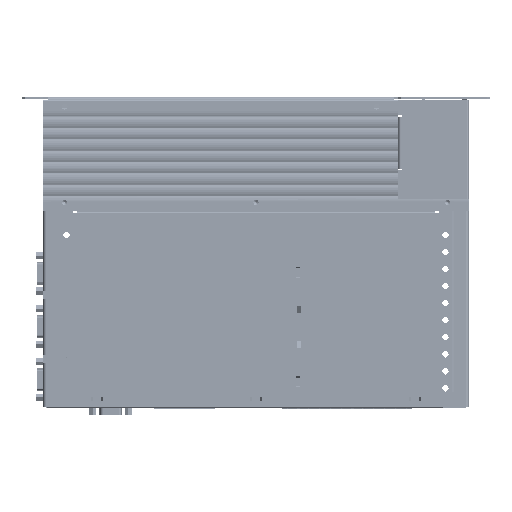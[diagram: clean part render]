
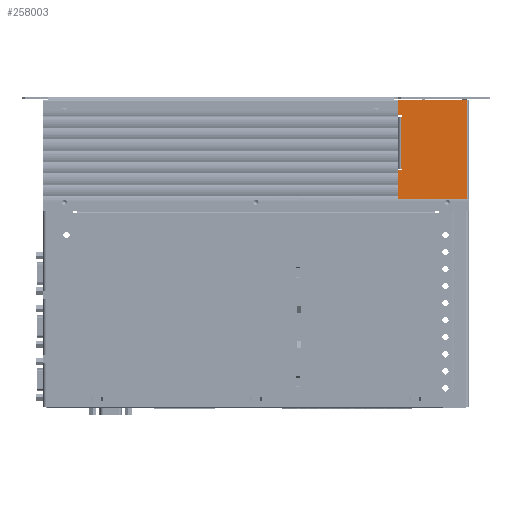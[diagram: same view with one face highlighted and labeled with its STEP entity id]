
A CAD part, front view. The second image highlights one B-rep face of the part: STEP entity #258003.
In plain terms, the highlighted planar face has unit normal (0, -1, 0) as drawn and (1, 0, 0) by its records, which use the part's own axes.
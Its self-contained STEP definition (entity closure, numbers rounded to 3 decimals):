
#110677 = EDGE_CURVE ( 'NONE', #110686, #110688, #199900, .T. ) ;
#110686 = VERTEX_POINT ( 'NONE', #199955 ) ;
#110688 = VERTEX_POINT ( 'NONE', #199954 ) ;
#110900 = EDGE_CURVE ( 'NONE', #110902, #111067, #200321, .T. ) ;
#110902 = VERTEX_POINT ( 'NONE', #200315 ) ;
#111067 = VERTEX_POINT ( 'NONE', #200636 ) ;
#199896 = DIRECTION ( 'NONE',  ( 0., 1., 0. ) ) ;
#199897 = VECTOR ( 'NONE', #199896, 1000. ) ;
#199898 = CARTESIAN_POINT ( 'NONE',  ( 35., 19., -23. ) ) ;
#199900 = LINE ( 'NONE', #199898, #199897 ) ;
#199954 = CARTESIAN_POINT ( 'NONE',  ( 35., 20., -23. ) ) ;
#199955 = CARTESIAN_POINT ( 'NONE',  ( 35., 19., -23. ) ) ;
#200315 = CARTESIAN_POINT ( 'NONE',  ( 35., 20., 14. ) ) ;
#200317 = DIRECTION ( 'NONE',  ( 0., -1., 0. ) ) ;
#200319 = VECTOR ( 'NONE', #200317, 1000. ) ;
#200320 = CARTESIAN_POINT ( 'NONE',  ( 35., 22., 14. ) ) ;
#200321 = LINE ( 'NONE', #200320, #200319 ) ;
#200636 = CARTESIAN_POINT ( 'NONE',  ( 35., 19., 14. ) ) ;
#256843 = EDGE_CURVE ( 'NONE', #111067, #256911, #260752, .T. ) ;
#256902 = EDGE_CURVE ( 'NONE', #256911, #256904, #260988, .T. ) ;
#256904 = VERTEX_POINT ( 'NONE', #260960 ) ;
#256911 = VERTEX_POINT ( 'NONE', #260938 ) ;
#257066 = EDGE_CURVE ( 'NONE', #110688, #110902, #261864, .T. ) ;
#257353 = VERTEX_POINT ( 'NONE', #263036 ) ;
#257376 = EDGE_CURVE ( 'NONE', #256904, #257353, #263140, .T. ) ;
#257427 = VERTEX_POINT ( 'NONE', #263316 ) ;
#257468 = VERTEX_POINT ( 'NONE', #263380 ) ;
#257587 = VERTEX_POINT ( 'NONE', #263833 ) ;
#257618 = EDGE_CURVE ( 'NONE', #257353, #257587, #263910, .T. ) ;
#257703 = EDGE_CURVE ( 'NONE', #257587, #257427, #264286, .T. ) ;
#257769 = EDGE_CURVE ( 'NONE', #257427, #257468, #264621, .T. ) ;
#257887 = ORIENTED_EDGE ( 'NONE', *, *, #110677, .T. ) ;
#257894 = ORIENTED_EDGE ( 'NONE', *, *, #257066, .T. ) ;
#257903 = ORIENTED_EDGE ( 'NONE', *, *, #110900, .T. ) ;
#258003 = ADVANCED_FACE ( 'NONE', ( #265659 ), #265657, .T. ) ;
#258078 = ORIENTED_EDGE ( 'NONE', *, *, #257618, .T. ) ;
#258086 = ORIENTED_EDGE ( 'NONE', *, *, #257703, .T. ) ;
#258098 = EDGE_CURVE ( 'NONE', #257468, #258248, #265838, .T. ) ;
#258108 = ORIENTED_EDGE ( 'NONE', *, *, #256843, .T. ) ;
#258116 = ORIENTED_EDGE ( 'NONE', *, *, #256902, .T. ) ;
#258121 = ORIENTED_EDGE ( 'NONE', *, *, #257376, .T. ) ;
#258202 = EDGE_CURVE ( 'NONE', #258264, #110686, #266319, .T. ) ;
#258248 = VERTEX_POINT ( 'NONE', #266770 ) ;
#258264 = VERTEX_POINT ( 'NONE', #266715 ) ;
#258324 = EDGE_CURVE ( 'NONE', #258248, #258264, #267070, .T. ) ;
#258353 = EDGE_LOOP ( 'NONE', ( #258357, #257887, #257894, #257903, #258108, #258116, #258121, #258078, #258086, #258373, #258384, #258388 ) ) ;
#258357 = ORIENTED_EDGE ( 'NONE', *, *, #258202, .T. ) ;
#258373 = ORIENTED_EDGE ( 'NONE', *, *, #257769, .T. ) ;
#258384 = ORIENTED_EDGE ( 'NONE', *, *, #258098, .T. ) ;
#258388 = ORIENTED_EDGE ( 'NONE', *, *, #258324, .T. ) ;
#260744 = DIRECTION ( 'NONE',  ( 0., 0., 1. ) ) ;
#260747 = VECTOR ( 'NONE', #260744, 1000. ) ;
#260750 = CARTESIAN_POINT ( 'NONE',  ( 35., 19., 35. ) ) ;
#260752 = LINE ( 'NONE', #260750, #260747 ) ;
#260938 = CARTESIAN_POINT ( 'NONE',  ( 35., 19., 15. ) ) ;
#260960 = CARTESIAN_POINT ( 'NONE',  ( 35., 22., 15. ) ) ;
#260981 = DIRECTION ( 'NONE',  ( 0., 1., 0. ) ) ;
#260983 = VECTOR ( 'NONE', #260981, 1000. ) ;
#260985 = CARTESIAN_POINT ( 'NONE',  ( 35., -28., 15. ) ) ;
#260988 = LINE ( 'NONE', #260985, #260983 ) ;
#261859 = DIRECTION ( 'NONE',  ( 0., 0., 1. ) ) ;
#261860 = VECTOR ( 'NONE', #261859, 1000. ) ;
#261862 = CARTESIAN_POINT ( 'NONE',  ( 35., 20., 35. ) ) ;
#261864 = LINE ( 'NONE', #261862, #261860 ) ;
#263036 = CARTESIAN_POINT ( 'NONE',  ( 35., 22., 35. ) ) ;
#263135 = DIRECTION ( 'NONE',  ( 0., 0., 1. ) ) ;
#263137 = VECTOR ( 'NONE', #263135, 1000. ) ;
#263139 = CARTESIAN_POINT ( 'NONE',  ( 35., 22., 35. ) ) ;
#263140 = LINE ( 'NONE', #263139, #263137 ) ;
#263316 = CARTESIAN_POINT ( 'NONE',  ( 35., -26.5, -35. ) ) ;
#263380 = CARTESIAN_POINT ( 'NONE',  ( 35., 22., -35. ) ) ;
#263833 = CARTESIAN_POINT ( 'NONE',  ( 35., -26.5, 35. ) ) ;
#263903 = DIRECTION ( 'NONE',  ( 0., -1., 0. ) ) ;
#263906 = VECTOR ( 'NONE', #263903, 1000. ) ;
#263909 = CARTESIAN_POINT ( 'NONE',  ( 35., -28., 35. ) ) ;
#263910 = LINE ( 'NONE', #263909, #263906 ) ;
#264279 = DIRECTION ( 'NONE',  ( 0., 0., -1. ) ) ;
#264281 = VECTOR ( 'NONE', #264279, 1000. ) ;
#264283 = CARTESIAN_POINT ( 'NONE',  ( 35., -26.5, 35. ) ) ;
#264286 = LINE ( 'NONE', #264283, #264281 ) ;
#264616 = DIRECTION ( 'NONE',  ( 0., 1., 0. ) ) ;
#264617 = VECTOR ( 'NONE', #264616, 1000. ) ;
#264619 = CARTESIAN_POINT ( 'NONE',  ( 35., -28., -35. ) ) ;
#264621 = LINE ( 'NONE', #264619, #264617 ) ;
#265646 = DIRECTION ( 'NONE',  ( 0., 0., -1. ) ) ;
#265647 = DIRECTION ( 'NONE',  ( 1., 0., 0. ) ) ;
#265649 = AXIS2_PLACEMENT_3D ( 'NONE', #265655, #265647, #265646 ) ;
#265655 = CARTESIAN_POINT ( 'NONE',  ( 35., -28., 35. ) ) ;
#265657 = PLANE ( 'NONE',  #265649 ) ;
#265659 = FACE_OUTER_BOUND ( 'NONE', #258353, .T. ) ;
#265831 = DIRECTION ( 'NONE',  ( 0., 0., 1. ) ) ;
#265834 = VECTOR ( 'NONE', #265831, 1000. ) ;
#265835 = CARTESIAN_POINT ( 'NONE',  ( 35., 22., 35. ) ) ;
#265838 = LINE ( 'NONE', #265835, #265834 ) ;
#266314 = DIRECTION ( 'NONE',  ( 0., 0., 1. ) ) ;
#266316 = VECTOR ( 'NONE', #266314, 1000. ) ;
#266318 = CARTESIAN_POINT ( 'NONE',  ( 35., 19., 35. ) ) ;
#266319 = LINE ( 'NONE', #266318, #266316 ) ;
#266715 = CARTESIAN_POINT ( 'NONE',  ( 35., 19., -24. ) ) ;
#266770 = CARTESIAN_POINT ( 'NONE',  ( 35., 22., -24. ) ) ;
#267063 = DIRECTION ( 'NONE',  ( 0., -1., 0. ) ) ;
#267066 = VECTOR ( 'NONE', #267063, 1000. ) ;
#267068 = CARTESIAN_POINT ( 'NONE',  ( 35., -28., -24. ) ) ;
#267070 = LINE ( 'NONE', #267068, #267066 ) ;
